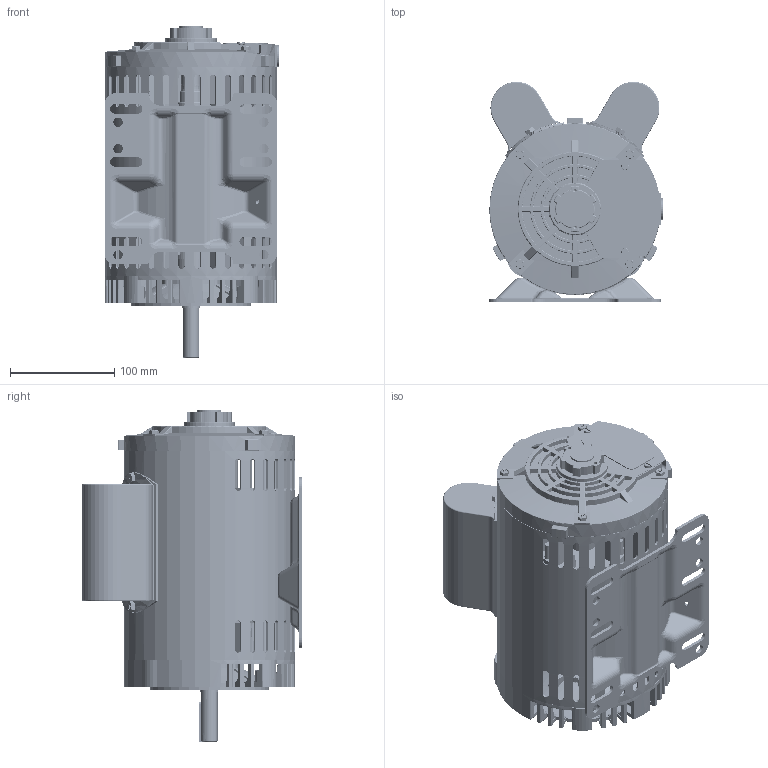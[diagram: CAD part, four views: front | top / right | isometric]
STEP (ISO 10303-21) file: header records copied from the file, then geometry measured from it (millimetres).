
FILE_DESCRIPTION (( 'STEP AP203' ), '1' );
FILE_NAME ('OPE 34-18-56CB.STEP', '2025-03-04T08:01:42', ( 'User' ), ( 'China' ), 'SwSTEP 2.0', 'SolidWorks 2019', '' );
FILE_SCHEMA (( 'CONFIG_CONTROL_DESIGN' ));
Length unit declared in the file: millimetre
Products named in the file (3): d; OPE 34-18-56CB; OPE 34-18-56
Assembly tree (2 placements, depth 2):
  OPE 34-18-56CB
    OPE 34-18-56
    d
Bounding box: 167 x 210.87 x 318.15 mm (x, y, z)
Volume: 1575410.5 mm3; surface area: 681507.6 mm2
Topology: 26 solids, 29 shells, 4083 faces, 10816 edges, 6735 vertices
Faces by surface type: cylinder 1740, plane 1234, torus 457, bspline 341, cone 207, sphere 104
Entity records: 176840 total; most frequent: CARTESIAN_POINT 80219, ORIENTED_EDGE 21396, DIRECTION 18753, EDGE_CURVE 10698, AXIS2_PLACEMENT_3D 7110, VERTEX_POINT 6728, VECTOR 4533, LINE 4533
